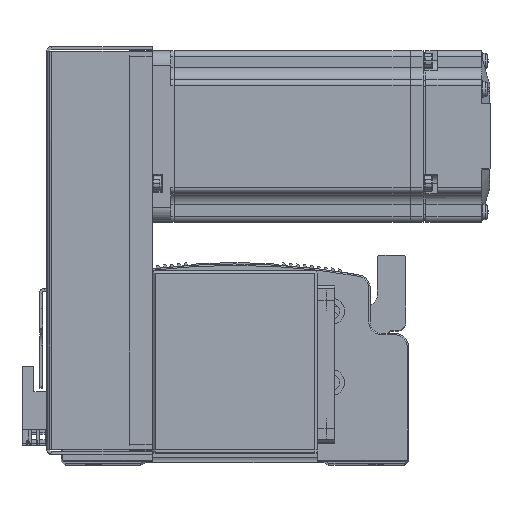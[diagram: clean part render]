
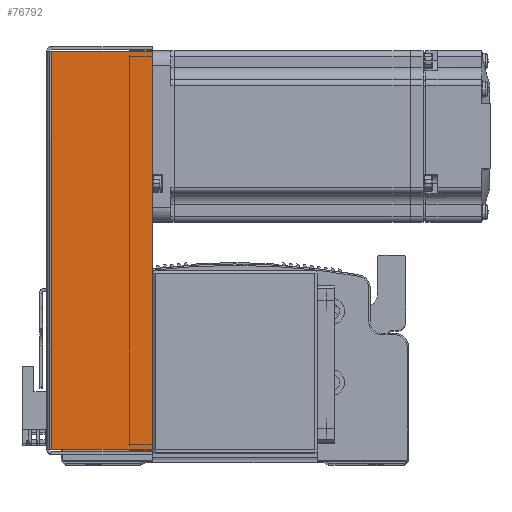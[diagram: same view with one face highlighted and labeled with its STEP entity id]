
A CAD part, top view. The second image highlights one B-rep face of the part: STEP entity #76792.
In plain terms, the highlighted planar face has unit normal (0, 0, 1) as drawn and (0, 0, -1) by its records, which use the part's own axes.
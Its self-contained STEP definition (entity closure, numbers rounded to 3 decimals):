
#2243 = VERTEX_POINT ( 'NONE', #78415 ) ;
#2876 = VERTEX_POINT ( 'NONE', #78785 ) ;
#2926 = VERTEX_POINT ( 'NONE', #78826 ) ;
#2928 = VERTEX_POINT ( 'NONE', #78829 ) ;
#5650 = ORIENTED_EDGE ( 'NONE', *, *, #36413, .F. ) ;
#5669 = ORIENTED_EDGE ( 'NONE', *, *, #36393, .T. ) ;
#5687 = ORIENTED_EDGE ( 'NONE', *, *, #36328, .T. ) ;
#5696 = ORIENTED_EDGE ( 'NONE', *, *, #36346, .F. ) ;
#8459 = AXIS2_PLACEMENT_3D ( 'NONE', #45653, #45671, #45690 ) ;
#22176 = FACE_OUTER_BOUND ( 'NONE', #73257, .T. ) ;
#36328 = EDGE_CURVE ( 'NONE', #2926, #2876, #42324, .T. ) ;
#36346 = EDGE_CURVE ( 'NONE', #2928, #2243, #42276, .T. ) ;
#36393 = EDGE_CURVE ( 'NONE', #2928, #2926, #42390, .T. ) ;
#36413 = EDGE_CURVE ( 'NONE', #2243, #2876, #42396, .T. ) ;
#40876 = DIRECTION ( 'NONE',  ( 1., 0., 0. ) ) ;
#40976 = CARTESIAN_POINT ( 'NONE',  ( 0., 36., -33.5 ) ) ;
#40991 = CARTESIAN_POINT ( 'NONE',  ( 71.5, 0.737, -33.5 ) ) ;
#41058 = DIRECTION ( 'NONE',  ( 1., 0., 0. ) ) ;
#41270 = CARTESIAN_POINT ( 'NONE',  ( -69.793, 0., -33.5 ) ) ;
#41290 = CARTESIAN_POINT ( 'NONE',  ( 69.793, 0., -33.5 ) ) ;
#41338 = DIRECTION ( 'NONE',  ( 0., 1., 0. ) ) ;
#41343 = DIRECTION ( 'NONE',  ( 0., 1., 0. ) ) ;
#42266 = VECTOR ( 'NONE', #41058, 1000. ) ;
#42276 = LINE ( 'NONE', #40991, #42266 ) ;
#42324 = LINE ( 'NONE', #40976, #42351 ) ;
#42351 = VECTOR ( 'NONE', #40876, 1000. ) ;
#42375 = VECTOR ( 'NONE', #41338, 1000. ) ;
#42390 = LINE ( 'NONE', #41270, #42375 ) ;
#42396 = LINE ( 'NONE', #41290, #42463 ) ;
#42463 = VECTOR ( 'NONE', #41343, 1000. ) ;
#45631 = PLANE ( 'NONE',  #8459 ) ;
#45653 = CARTESIAN_POINT ( 'NONE',  ( 0., 0., -33.5 ) ) ;
#45671 = DIRECTION ( 'NONE',  ( 0., 0., 1. ) ) ;
#45690 = DIRECTION ( 'NONE',  ( 0., -1., 0. ) ) ;
#73257 = EDGE_LOOP ( 'NONE', ( #5696, #5669, #5687, #5650 ) ) ;
#76792 = ADVANCED_FACE ( 'NONE', ( #22176 ), #45631, .F. ) ;
#78415 = CARTESIAN_POINT ( 'NONE',  ( 69.793, 0.737, -33.5 ) ) ;
#78785 = CARTESIAN_POINT ( 'NONE',  ( 69.793, 36., -33.5 ) ) ;
#78826 = CARTESIAN_POINT ( 'NONE',  ( -69.793, 36., -33.5 ) ) ;
#78829 = CARTESIAN_POINT ( 'NONE',  ( -69.793, 0.737, -33.5 ) ) ;
